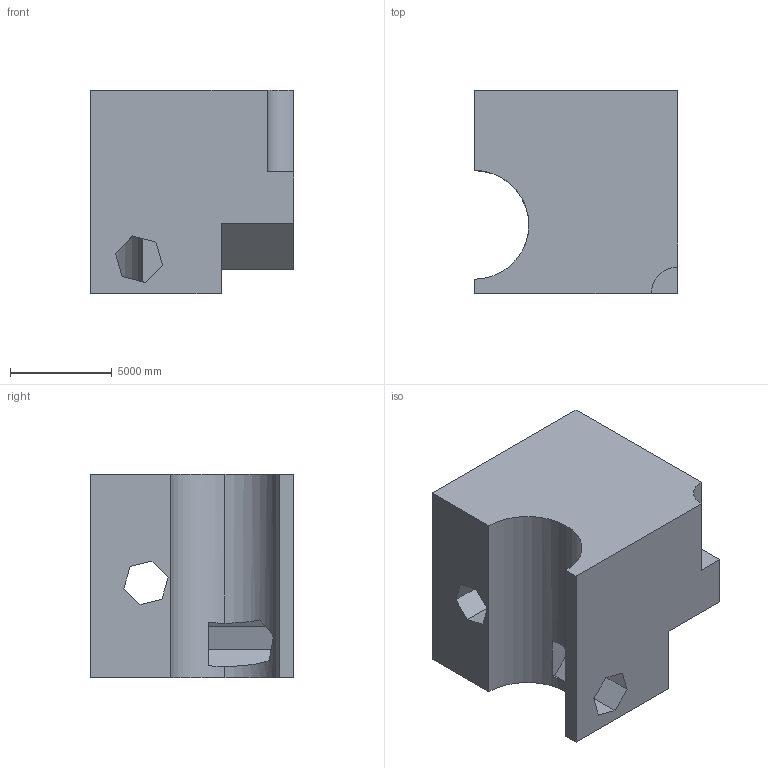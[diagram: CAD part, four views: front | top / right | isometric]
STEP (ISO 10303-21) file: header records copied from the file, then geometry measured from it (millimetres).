
FILE_DESCRIPTION (( 'STEP AP203' ), '1' );
FILE_NAME ('319.STEP', '2022-09-07T12:50:23', ( 'user' ), ( '' ), 'SwSTEP 2.0', 'SolidWorks 2021', '' );
FILE_SCHEMA (( 'CONFIG_CONTROL_DESIGN' ));
Length unit declared in the file: centimetre
Products named in the file (1): 319
Bounding box: 10000 x 10000 x 10000 mm (x, y, z)
Volume: 749263215179.1 mm3; surface area: 672316563.5 mm2
Topology: 1 solids, 1 shells, 34 faces, 96 edges, 64 vertices
Faces by surface type: plane 31, cylinder 3
Entity records: 1171 total; most frequent: CARTESIAN_POINT 213, ORIENTED_EDGE 192, DIRECTION 166, EDGE_CURVE 96, VECTOR 84, LINE 84, VERTEX_POINT 64, AXIS2_PLACEMENT_3D 41
